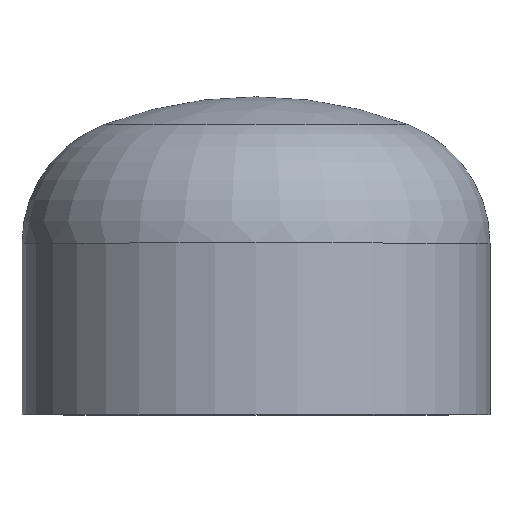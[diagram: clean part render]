
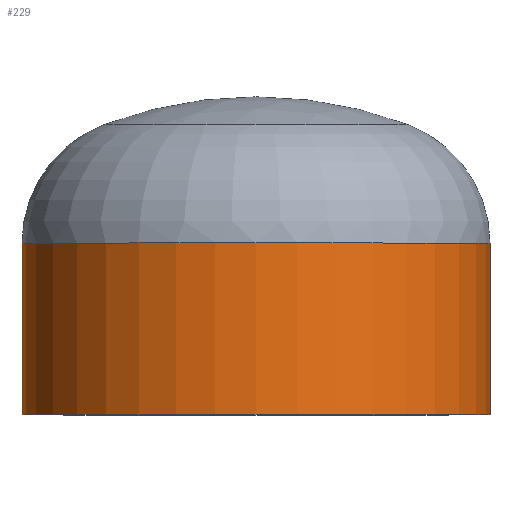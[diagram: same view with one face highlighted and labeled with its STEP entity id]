
A CAD part, top view. The second image highlights one B-rep face of the part: STEP entity #229.
In plain terms, the highlighted cylindrical face has radius 136.5 mm (diameter 273 mm), a partial arc.
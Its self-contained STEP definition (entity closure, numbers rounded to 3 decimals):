
#12 = AXIS2_PLACEMENT_3D ( 'NONE', #131, #40, #275 ) ;
#40 = DIRECTION ( 'NONE',  ( 0., -1., 0. ) ) ;
#48 = AXIS2_PLACEMENT_3D ( 'NONE', #222, #212, #207 ) ;
#49 = EDGE_CURVE ( 'NONE', #174, #258, #301, .T. ) ;
#72 = CARTESIAN_POINT ( 'NONE',  ( 136.5, 0., 0. ) ) ;
#94 = CARTESIAN_POINT ( 'NONE',  ( 136.5, 0., 0. ) ) ;
#99 = ORIENTED_EDGE ( 'NONE', *, *, #49, .T. ) ;
#129 = CARTESIAN_POINT ( 'NONE',  ( -136.5, 100., 0. ) ) ;
#130 = CARTESIAN_POINT ( 'NONE',  ( -136.5, 0., 0. ) ) ;
#131 = CARTESIAN_POINT ( 'NONE',  ( 0., 0., 0. ) ) ;
#139 = CARTESIAN_POINT ( 'NONE',  ( 136.5, 100., 0. ) ) ;
#144 = ORIENTED_EDGE ( 'NONE', *, *, #334, .F. ) ;
#172 = CYLINDRICAL_SURFACE ( 'NONE', #12, 136.5 ) ;
#174 = VERTEX_POINT ( 'NONE', #139 ) ;
#182 = DIRECTION ( 'NONE',  ( 1., 0., 0. ) ) ;
#201 = ORIENTED_EDGE ( 'NONE', *, *, #339, .F. ) ;
#207 = DIRECTION ( 'NONE',  ( 1., 0., 0. ) ) ;
#212 = DIRECTION ( 'NONE',  ( 0., -1., 0. ) ) ;
#213 = LINE ( 'NONE', #410, #361 ) ;
#220 = VECTOR ( 'NONE', #340, 1000. ) ;
#222 = CARTESIAN_POINT ( 'NONE',  ( 0., 100., 0. ) ) ;
#226 = LINE ( 'NONE', #72, #220 ) ;
#227 = VERTEX_POINT ( 'NONE', #130 ) ;
#228 = DIRECTION ( 'NONE',  ( 0., -1., 0. ) ) ;
#229 = ADVANCED_FACE ( 'NONE', ( #331 ), #172, .T. ) ;
#242 = EDGE_LOOP ( 'NONE', ( #99, #362, #201, #144 ) ) ;
#258 = VERTEX_POINT ( 'NONE', #129 ) ;
#275 = DIRECTION ( 'NONE',  ( 1., 0., 0. ) ) ;
#301 = CIRCLE ( 'NONE', #48, 136.5 ) ;
#330 = AXIS2_PLACEMENT_3D ( 'NONE', #354, #357, #182 ) ;
#331 = FACE_OUTER_BOUND ( 'NONE', #242, .T. ) ;
#334 = EDGE_CURVE ( 'NONE', #174, #359, #226, .T. ) ;
#339 = EDGE_CURVE ( 'NONE', #359, #227, #381, .T. ) ;
#340 = DIRECTION ( 'NONE',  ( 0., -1., 0. ) ) ;
#354 = CARTESIAN_POINT ( 'NONE',  ( 0., 0., 0. ) ) ;
#357 = DIRECTION ( 'NONE',  ( 0., -1., 0. ) ) ;
#359 = VERTEX_POINT ( 'NONE', #94 ) ;
#361 = VECTOR ( 'NONE', #228, 1000. ) ;
#362 = ORIENTED_EDGE ( 'NONE', *, *, #375, .T. ) ;
#375 = EDGE_CURVE ( 'NONE', #258, #227, #213, .T. ) ;
#381 = CIRCLE ( 'NONE', #330, 136.5 ) ;
#410 = CARTESIAN_POINT ( 'NONE',  ( -136.5, 0., 0. ) ) ;
